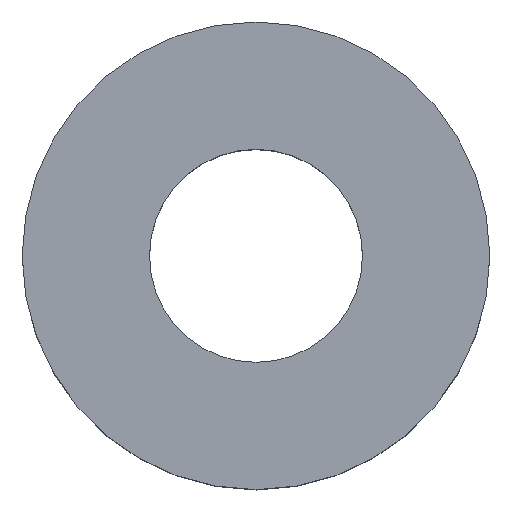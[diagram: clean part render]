
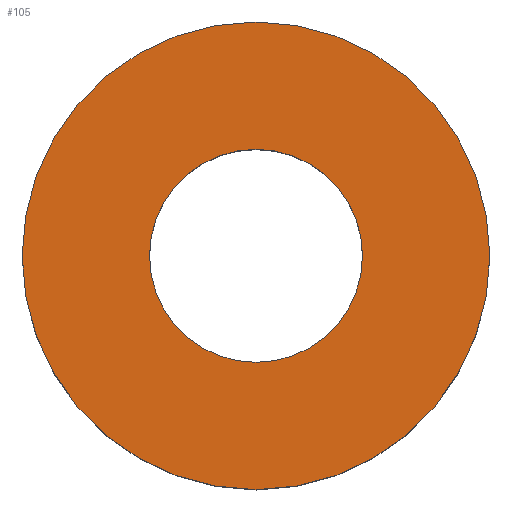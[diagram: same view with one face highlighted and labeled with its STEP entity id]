
A CAD part, top view. The second image highlights one B-rep face of the part: STEP entity #105.
In plain terms, the highlighted planar face has unit normal (0, 0, 1).
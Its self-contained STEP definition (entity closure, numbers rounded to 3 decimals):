
#21 = EDGE_CURVE('',#22,#22,#24,.T.);
#22 = VERTEX_POINT('',#23);
#23 = CARTESIAN_POINT('',(-390.544,-142.369,43.));
#24 = SURFACE_CURVE('',#25,(#30,#42),.PCURVE_S1.);
#25 = CIRCLE('',#26,9.);
#26 = AXIS2_PLACEMENT_3D('',#27,#28,#29);
#27 = CARTESIAN_POINT('',(-399.544,-142.369,43.));
#28 = DIRECTION('',(0.,0.,1.));
#29 = DIRECTION('',(1.,0.,-0.));
#30 = PCURVE('',#31,#36);
#31 = CYLINDRICAL_SURFACE('',#32,9.);
#32 = AXIS2_PLACEMENT_3D('',#33,#34,#35);
#33 = CARTESIAN_POINT('',(-399.544,-142.369,35.));
#34 = DIRECTION('',(0.,0.,1.));
#35 = DIRECTION('',(1.,0.,-0.));
#36 = DEFINITIONAL_REPRESENTATION('',(#37),#41);
#37 = LINE('',#38,#39);
#38 = CARTESIAN_POINT('',(0.,8.));
#39 = VECTOR('',#40,1.);
#40 = DIRECTION('',(1.,0.));
#41 = ( GEOMETRIC_REPRESENTATION_CONTEXT(2) 
PARAMETRIC_REPRESENTATION_CONTEXT() REPRESENTATION_CONTEXT('2D SPACE',''
  ) );
#42 = PCURVE('',#43,#48);
#43 = PLANE('',#44);
#44 = AXIS2_PLACEMENT_3D('',#45,#46,#47);
#45 = CARTESIAN_POINT('',(-399.544,-142.369,43.));
#46 = DIRECTION('',(0.,0.,1.));
#47 = DIRECTION('',(1.,0.,-0.));
#48 = DEFINITIONAL_REPRESENTATION('',(#49),#53);
#49 = CIRCLE('',#50,9.);
#50 = AXIS2_PLACEMENT_2D('',#51,#52);
#51 = CARTESIAN_POINT('',(0.,0.));
#52 = DIRECTION('',(1.,0.));
#53 = ( GEOMETRIC_REPRESENTATION_CONTEXT(2) 
PARAMETRIC_REPRESENTATION_CONTEXT() REPRESENTATION_CONTEXT('2D SPACE',''
  ) );
#105 = ADVANCED_FACE('',(#106,#109),#43,.T.);
#106 = FACE_BOUND('',#107,.T.);
#107 = EDGE_LOOP('',(#108));
#108 = ORIENTED_EDGE('',*,*,#21,.T.);
#109 = FACE_BOUND('',#110,.T.);
#110 = EDGE_LOOP('',(#111));
#111 = ORIENTED_EDGE('',*,*,#112,.F.);
#112 = EDGE_CURVE('',#113,#113,#115,.T.);
#113 = VERTEX_POINT('',#114);
#114 = CARTESIAN_POINT('',(-395.444,-142.369,43.));
#115 = SURFACE_CURVE('',#116,(#121,#128),.PCURVE_S1.);
#116 = CIRCLE('',#117,4.1);
#117 = AXIS2_PLACEMENT_3D('',#118,#119,#120);
#118 = CARTESIAN_POINT('',(-399.544,-142.369,43.));
#119 = DIRECTION('',(0.,0.,1.));
#120 = DIRECTION('',(1.,0.,-0.));
#121 = PCURVE('',#43,#122);
#122 = DEFINITIONAL_REPRESENTATION('',(#123),#127);
#123 = CIRCLE('',#124,4.1);
#124 = AXIS2_PLACEMENT_2D('',#125,#126);
#125 = CARTESIAN_POINT('',(0.,0.));
#126 = DIRECTION('',(1.,0.));
#127 = ( GEOMETRIC_REPRESENTATION_CONTEXT(2) 
PARAMETRIC_REPRESENTATION_CONTEXT() REPRESENTATION_CONTEXT('2D SPACE',''
  ) );
#128 = PCURVE('',#129,#134);
#129 = CYLINDRICAL_SURFACE('',#130,4.1);
#130 = AXIS2_PLACEMENT_3D('',#131,#132,#133);
#131 = CARTESIAN_POINT('',(-399.544,-142.369,35.));
#132 = DIRECTION('',(0.,0.,1.));
#133 = DIRECTION('',(1.,0.,-0.));
#134 = DEFINITIONAL_REPRESENTATION('',(#135),#139);
#135 = LINE('',#136,#137);
#136 = CARTESIAN_POINT('',(0.,8.));
#137 = VECTOR('',#138,1.);
#138 = DIRECTION('',(1.,0.));
#139 = ( GEOMETRIC_REPRESENTATION_CONTEXT(2) 
PARAMETRIC_REPRESENTATION_CONTEXT() REPRESENTATION_CONTEXT('2D SPACE',''
  ) );
